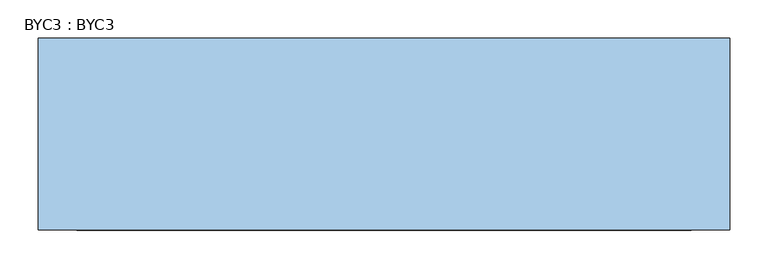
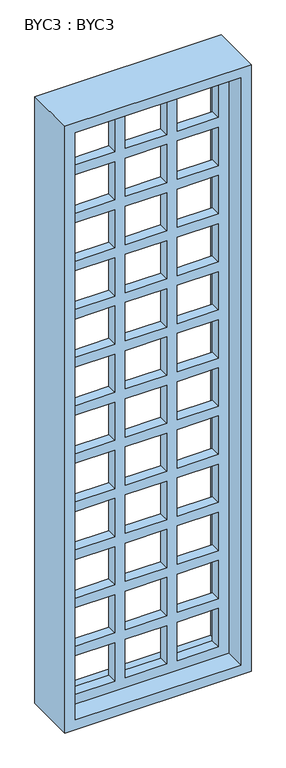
"""IFC4 building model written with IfcOpenShell, lengths in millimetres: window geometry, BYC3 : BYC3."""

from ifc_helpers import new_model, si_unit, frame, origin, place, context, project, spatial, polyline, outline, extrude, source, transform, mapped, element, save


def byc3_byc3_bbe23264(model_context):
    return source(origin(), model_context, "Body", "SweptSolid", [
        extrude(outline(polyline([(3950.0, 400.0), (3950.0, -400.0), (950.0, -400.0), (950.0, 400.0), (3950.0, 400.0)]), holes=[polyline([(3900.0, -150.0), (3704.1666667, -150.0), (3704.1666667, -350.0), (3900.0, -350.0), (3900.0, -150.0)]), polyline([(3900.0, 100.0), (3704.1666667, 100.0), (3704.1666667, -100.0), (3900.0, -100.0), (3900.0, 100.0)]), polyline([(3900.0, 350.0), (3704.1666667, 350.0), (3704.1666667, 150.0), (3900.0, 150.0), (3900.0, 350.0)]), polyline([(3654.1666667, -150.0), (3458.3333333, -150.0), (3458.3333333, -350.0), (3654.1666667, -350.0), (3654.1666667, -150.0)]), polyline([(3654.1666667, 100.0), (3458.3333333, 100.0), (3458.3333333, -100.0), (3654.1666667, -100.0), (3654.1666667, 100.0)]), polyline([(3654.1666667, 350.0), (3458.3333333, 350.0), (3458.3333333, 150.0), (3654.1666667, 150.0), (3654.1666667, 350.0)]), polyline([(3408.3333333, -150.0), (3212.5, -150.0), (3212.5, -350.0), (3408.3333333, -350.0), (3408.3333333, -150.0)]), polyline([(3408.3333333, 100.0), (3212.5, 100.0), (3212.5, -100.0), (3408.3333333, -100.0), (3408.3333333, 100.0)]), polyline([(3408.3333333, 350.0), (3212.5, 350.0), (3212.5, 150.0), (3408.3333333, 150.0), (3408.3333333, 350.0)]), polyline([(3162.5, -150.0), (2966.6666667, -150.0), (2966.6666667, -350.0), (3162.5, -350.0), (3162.5, -150.0)]), polyline([(3162.5, 100.0), (2966.6666667, 100.0), (2966.6666667, -100.0), (3162.5, -100.0), (3162.5, 100.0)]), polyline([(3162.5, 350.0), (2966.6666667, 350.0), (2966.6666667, 150.0), (3162.5, 150.0), (3162.5, 350.0)]), polyline([(2720.8333333, -350.0), (2916.6666667, -350.0), (2916.6666667, -150.0), (2720.8333333, -150.0), (2720.8333333, -350.0)]), polyline([(2916.6666667, 100.0), (2720.8333333, 100.0), (2720.8333333, -100.0), (2916.6666667, -100.0), (2916.6666667, 100.0)]), polyline([(2916.6666667, 350.0), (2720.8333333, 350.0), (2720.8333333, 150.0), (2916.6666667, 150.0), (2916.6666667, 350.0)]), polyline([(2670.8333333, -150.0), (2475.0, -150.0), (2475.0, -350.0), (2670.8333333, -350.0), (2670.8333333, -150.0)]), polyline([(2670.8333333, 100.0), (2475.0, 100.0), (2475.0, -100.0), (2670.8333333, -100.0), (2670.8333333, 100.0)]), polyline([(2670.8333333, 350.0), (2475.0, 350.0), (2475.0, 150.0), (2670.8333333, 150.0), (2670.8333333, 350.0)]), polyline([(2425.0, -150.0), (2229.1666667, -150.0), (2229.1666667, -350.0), (2425.0, -350.0), (2425.0, -150.0)]), polyline([(2425.0, 100.0), (2229.1666667, 100.0), (2229.1666667, -100.0), (2425.0, -100.0), (2425.0, 100.0)]), polyline([(2425.0, 350.0), (2229.1666667, 350.0), (2229.1666667, 150.0), (2425.0, 150.0), (2425.0, 350.0)]), polyline([(2179.1666667, -150.0), (1983.3333333, -150.0), (1983.3333333, -350.0), (2179.1666667, -350.0), (2179.1666667, -150.0)]), polyline([(2179.1666667, 100.0), (1983.3333333, 100.0), (1983.3333333, -100.0), (2179.1666667, -100.0), (2179.1666667, 100.0)]), polyline([(2179.1666667, 350.0), (1983.3333333, 350.0), (1983.3333333, 150.0), (2179.1666667, 150.0), (2179.1666667, 350.0)]), polyline([(1933.3333333, -150.0), (1737.5, -150.0), (1737.5, -350.0), (1933.3333333, -350.0), (1933.3333333, -150.0)]), polyline([(1933.3333333, 100.0), (1737.5, 100.0), (1737.5, -100.0), (1933.3333333, -100.0), (1933.3333333, 100.0)]), polyline([(1933.3333333, 350.0), (1737.5, 350.0), (1737.5, 150.0), (1933.3333333, 150.0), (1933.3333333, 350.0)]), polyline([(1687.5, -150.0), (1491.6666667, -150.0), (1491.6666667, -350.0), (1687.5, -350.0), (1687.5, -150.0)]), polyline([(1687.5, 100.0), (1491.6666667, 100.0), (1491.6666667, -100.0), (1687.5, -100.0), (1687.5, 100.0)]), polyline([(1687.5, 350.0), (1491.6666667, 350.0), (1491.6666667, 150.0), (1687.5, 150.0), (1687.5, 350.0)]), polyline([(1441.6666667, -150.0), (1245.8333333, -150.0), (1245.8333333, -350.0), (1441.6666667, -350.0), (1441.6666667, -150.0)]), polyline([(1441.6666667, 100.0), (1245.8333333, 100.0), (1245.8333333, -100.0), (1441.6666667, -100.0), (1441.6666667, 100.0)]), polyline([(1441.6666667, 350.0), (1245.8333333, 350.0), (1245.8333333, 150.0), (1441.6666667, 150.0), (1441.6666667, 350.0)]), polyline([(1195.8333333, -150.0), (1000.0, -150.0), (1000.0, -350.0), (1195.8333333, -350.0), (1195.8333333, -150.0)]), polyline([(1195.8333333, 100.0), (1000.0, 100.0), (1000.0, -100.0), (1195.8333333, -100.0), (1195.8333333, 100.0)]), polyline([(1195.8333333, 350.0), (1000.0, 350.0), (1000.0, 150.0), (1195.8333333, 150.0), (1195.8333333, 350.0)])]), frame((0.0, -25.0, 0.0), z_axis=(0.0, 1.0, 0.0), x_axis=(0.0, 0.0, 1.0)), (0.0, 0.0, 1.0), 50.0),
        extrude(outline(polyline([(4000.0, 450.0), (4000.0, -450.0), (900.0, -450.0), (900.0, 450.0), (4000.0, 450.0)]), holes=[polyline([(3950.0, 400.0), (950.0, 400.0), (950.0, -400.0), (3950.0, -400.0), (3950.0, 400.0)])]), frame((0.0, -125.0, 0.0), z_axis=(0.0, 1.0, 0.0), x_axis=(0.0, 0.0, 1.0)), (0.0, 0.0, 1.0), 250.0),
    ])


if __name__ == "__main__":
    model = new_model("IFC4")
    model_context = context("Model", 3, world=origin())
    ifc_project = project(units=[si_unit("LENGTHUNIT", "METRE", prefix="MILLI")], contexts=[model_context])
    site = spatial("IfcSite", under=ifc_project)
    building = spatial("IfcBuilding", under=site)
    placement = place(None, origin())
    byc3_byc3_shape = byc3_byc3_bbe23264(model_context)
    element("IfcWindow", 1, ObjectType="BYC3 : BYC3", at=placement, inside=building, context=model_context, shape_type="MappedRepresentation", body=[
        mapped(byc3_byc3_shape, transform((0.0, 0.0, 0.0), x_axis=(1.0, 0.0, 0.0), y_axis=(0.0, 1.0, 0.0), z_axis=(0.0, 0.0, 1.0))),
    ])
    save(model, "model.ifc")
